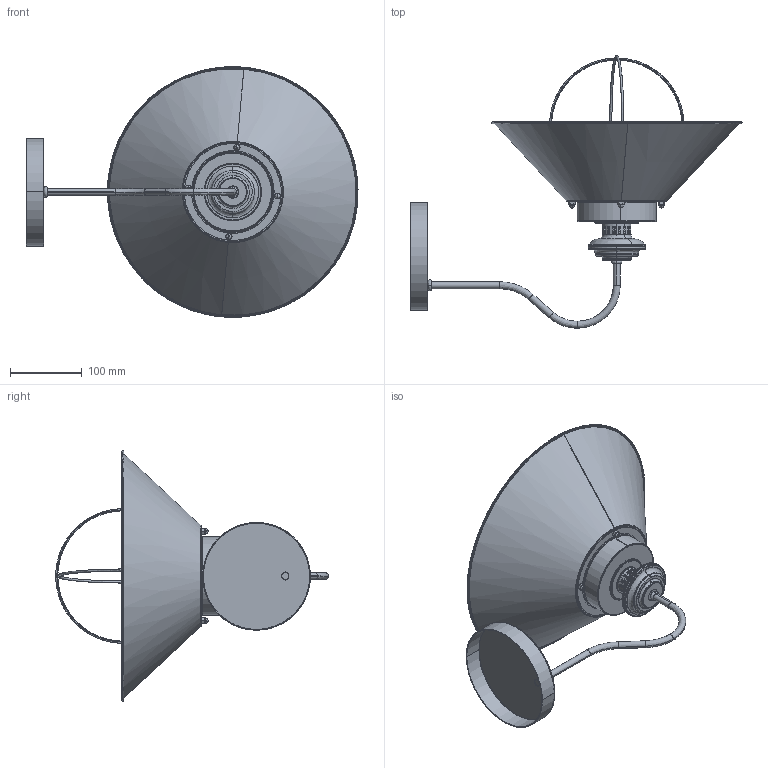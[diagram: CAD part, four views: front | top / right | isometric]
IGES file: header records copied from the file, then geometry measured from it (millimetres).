
Start section: SolidWorks IGES file using analytic representation for surfaces
Global section: file name: E:\3D lampy\Loft\Loft kinkiet duzy\Loft kinkiet du¿y.IGS; native system: SolidWorks 2016; preprocessor: SolidWorks 2016; author: Asia; date: 160920.151129; units: millimetre
Bounding box: 462.41 x 379.47 x 348.94 mm (x, y, z)
Surface area: 453927.7 mm2 (no closed solid volume)
Topology: 0 solids, 0 shells, 511 faces, 8275 edges, 8251 vertices
Faces by surface type: bspline 263, revolution 248
